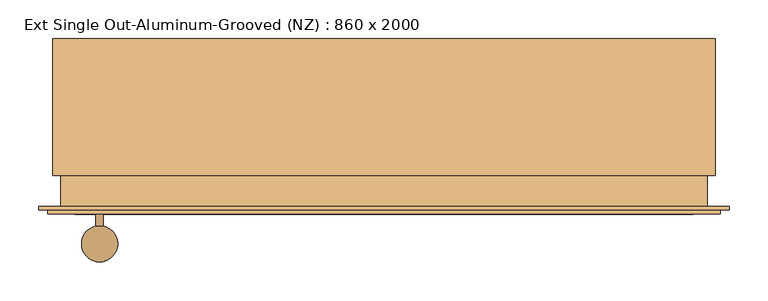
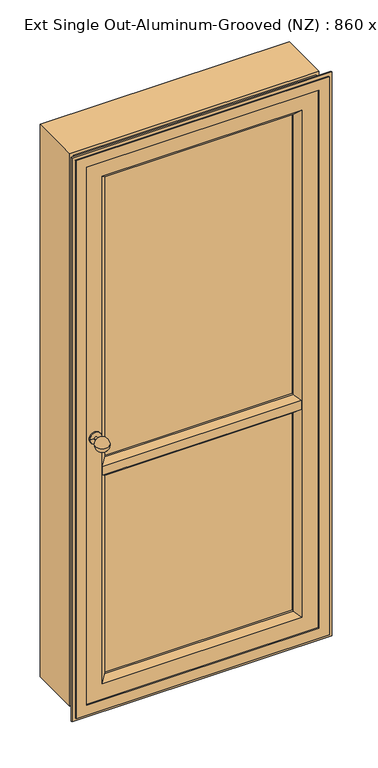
"""IFC4 building model written with IfcOpenShell, lengths in millimetres: door geometry, Ext Single Out-Aluminum-Grooved (NZ) : 860 x 2000."""

from ifc_helpers import new_model, si_unit, point, frame, origin, place, context, project, spatial, polyline, circle_curve, ellipse_curve, trimmed, outline, extrude, faceted_brep, source, transform, mapped, element, save
from ifc_brep_helpers import plane_surface, cylinder_surface, revolved_surface, advanced_brep


def ext_single_out_aluminum_grooved_nz_860_x_2000_eb449b41(model_context):
    return source(origin(), model_context, "Body", "SolidModel", [
        advanced_brep(
        [(-430.0, -104.7734893, 1000.0), (-410.0, -104.7734893, 1000.0), (-450.0, -104.7734893, 1000.0), (-425.0, -125.3183768, 1000.0), (-430.0, -171.1994132, 1000.0), (-435.0, -125.3183768, 1000.0), (-425.0, -109.7734893, 1000.0), (-435.0, -109.7734893, 1000.0), (-410.0, -109.7734893, 1000.0), (-450.0, -109.7734893, 1000.0)],
        [
            (0, 1),
            (1, 2, circle_curve(frame((-430.0, -104.7734893, 1000.0), z_axis=(0.0, 1.0, 0.0), x_axis=(-1.0, 0.0, 0.0)), 20.0)),
            (2, 0),
            (2, 1, circle_curve(frame((-430.0, -104.7734893, 1000.0), z_axis=(0.0, 1.0, 0.0), x_axis=(-1.0, 0.0, 0.0)), 20.0)),
            (3, 4, circle_curve(frame((-430.0, -147.9864513, 1000.0), z_axis=(0.0, 0.0, -1.0), x_axis=(0.0, 1.0, 0.0)), 23.2129619)),
            (4, 5, circle_curve(frame((-430.0, -147.9864513, 1000.0), z_axis=(0.0, 0.0, -1.0), x_axis=(0.0, 1.0, 0.0)), 23.2129619)),
            (5, 3, circle_curve(frame((-430.0, -125.3183768, 1000.0), z_axis=(0.0, -1.0, 0.0), x_axis=(-1.0, 0.0, 0.0)), 5.0)),
            (3, 5, circle_curve(frame((-430.0, -125.3183768, 1000.0), z_axis=(0.0, -1.0, 0.0), x_axis=(-1.0, 0.0, 0.0)), 5.0)),
            (6, 3),
            (5, 7),
            (7, 6, circle_curve(frame((-430.0, -109.7734893, 1000.0), z_axis=(0.0, -1.0, 0.0), x_axis=(-1.0, 0.0, 0.0)), 5.0)),
            (6, 7, circle_curve(frame((-430.0, -109.7734893, 1000.0), z_axis=(0.0, -1.0, 0.0), x_axis=(-1.0, 0.0, 0.0)), 5.0)),
            (8, 6),
            (7, 9),
            (9, 8, circle_curve(frame((-430.0, -109.7734893, 1000.0), z_axis=(0.0, -1.0, 0.0), x_axis=(-1.0, 0.0, 0.0)), 20.0)),
            (8, 9, circle_curve(frame((-430.0, -109.7734893, 1000.0), z_axis=(0.0, -1.0, 0.0), x_axis=(-1.0, 0.0, 0.0)), 20.0)),
            (1, 8),
            (9, 2),
        ],
        [
            plane_surface(frame((-430.0, -104.7734893, 1000.0), z_axis=(0.0, 1.0, 0.0), x_axis=(-1.0, 0.0, 0.0))),
            revolved_surface(trimmed(ellipse_curve(frame((-430.0, -147.9864513, 1000.0), z_axis=(0.0, 0.0, -1.0), x_axis=(0.0, 1.0, 0.0)), 23.2129619, 23.2129619), [point((-430.0, -171.1994132, 1000.0))], [point((-435.0, -125.3183768, 1000.0))], True, "CARTESIAN"), (-430.0, -171.1994132, 1000.0), (0.0, 1.0, 0.0)),
            cylinder_surface(frame((-430.0, -171.1994132, 1000.0), z_axis=(0.0, 1.0, 0.0), x_axis=(-1.0, 0.0, 0.0)), 5.0),
            plane_surface(frame((-430.0, -109.7734893, 1000.0), z_axis=(0.0, -1.0, 0.0), x_axis=(-1.0, 0.0, 0.0))),
            cylinder_surface(frame((-430.0, -171.1994132, 1000.0), z_axis=(0.0, 1.0, 0.0), x_axis=(-1.0, 0.0, 0.0)), 20.0),
        ],
        [
            (0, [[1, 2, 3]]),
            (0, [[-3, 4, -1]]),
            (1, [[5, 6, 7]]),
            (1, [[-6, -5, 8]]),
            (2, [[9, -7, 10, 11]]),
            (2, [[-10, -8, -9, 12]]),
            (3, [[13, -11, 14, 15]]),
            (3, [[-14, -12, -13, 16]]),
            (4, [[17, -15, 18, -2]]),
            (4, [[-18, -16, -17, -4]]),
        ],
    ),
        advanced_brep(
        [(-410.0, -51.7734893, 1000.0), (-410.0, -56.7734893, 1000.0), (-450.0, -56.7734893, 1000.0), (-450.0, -51.7734893, 1000.0), (-425.0, -51.7734893, 1000.0), (-435.0, -51.7734893, 1000.0), (-425.0, -36.2286019, 1000.0), (-435.0, -36.2286019, 1000.0), (-430.0, 9.6524345, 1000.0), (-430.0, -56.7734893, 1000.0)],
        [
            (0, 1),
            (1, 2, circle_curve(frame((-430.0, -56.7734893, 1000.0), z_axis=(0.0, 1.0, 0.0), x_axis=(-1.0, 0.0, 0.0)), 20.0)),
            (2, 3),
            (3, 0, circle_curve(frame((-430.0, -51.7734893, 1000.0), z_axis=(0.0, -1.0, 0.0), x_axis=(-1.0, 0.0, 0.0)), 20.0)),
            (2, 1, circle_curve(frame((-430.0, -56.7734893, 1000.0), z_axis=(0.0, 1.0, 0.0), x_axis=(-1.0, 0.0, 0.0)), 20.0)),
            (0, 3, circle_curve(frame((-430.0, -51.7734893, 1000.0), z_axis=(0.0, -1.0, 0.0), x_axis=(-1.0, 0.0, 0.0)), 20.0)),
            (4, 0),
            (3, 5),
            (5, 4, circle_curve(frame((-430.0, -51.7734893, 1000.0), z_axis=(0.0, -1.0, 0.0), x_axis=(-1.0, 0.0, 0.0)), 5.0)),
            (4, 5, circle_curve(frame((-430.0, -51.7734893, 1000.0), z_axis=(0.0, -1.0, 0.0), x_axis=(-1.0, 0.0, 0.0)), 5.0)),
            (6, 4),
            (5, 7),
            (7, 6, circle_curve(frame((-430.0, -36.2286019, 1000.0), z_axis=(0.0, -1.0, 0.0), x_axis=(-1.0, 0.0, 0.0)), 5.0)),
            (6, 7, circle_curve(frame((-430.0, -36.2286019, 1000.0), z_axis=(0.0, -1.0, 0.0), x_axis=(-1.0, 0.0, 0.0)), 5.0)),
            (8, 6, circle_curve(frame((-430.0, -13.5605274, 1000.0), z_axis=(0.0, 0.0, -1.0), x_axis=(0.0, 1.0, 0.0)), 23.2129619)),
            (7, 8, circle_curve(frame((-430.0, -13.5605274, 1000.0), z_axis=(0.0, 0.0, -1.0), x_axis=(0.0, 1.0, 0.0)), 23.2129619)),
            (1, 9),
            (9, 2),
        ],
        [
            cylinder_surface(frame((-430.0, -171.1994132, 1000.0), z_axis=(0.0, 1.0, 0.0), x_axis=(-1.0, 0.0, 0.0)), 20.0),
            plane_surface(frame((-430.0, -51.7734893, 1000.0), z_axis=(0.0, 1.0, 0.0), x_axis=(-1.0, 0.0, 0.0))),
            cylinder_surface(frame((-430.0, -171.1994132, 1000.0), z_axis=(0.0, 1.0, 0.0), x_axis=(-1.0, 0.0, 0.0)), 5.0),
            revolved_surface(trimmed(ellipse_curve(frame((-430.0, -13.5605274, 1000.0), z_axis=(0.0, 0.0, -1.0), x_axis=(0.0, 1.0, 0.0)), 23.2129619, 23.2129619), [point((-435.0, -36.2286019, 1000.0))], [point((-430.0, 9.6524345, 1000.0))], True, "CARTESIAN"), (-430.0, -171.1994132, 1000.0), (0.0, 1.0, 0.0)),
            plane_surface(frame((-430.0, -56.7734893, 1000.0), z_axis=(0.0, -1.0, 0.0), x_axis=(-1.0, 0.0, 0.0))),
        ],
        [
            (0, [[1, 2, 3, 4]]),
            (0, [[-3, 5, -1, 6]]),
            (1, [[7, -4, 8, 9]]),
            (1, [[-8, -6, -7, 10]]),
            (2, [[11, -9, 12, 13]]),
            (2, [[-12, -10, -11, 14]]),
            (3, [[15, -13, 16]]),
            (3, [[-16, -14, -15]]),
            (4, [[17, 18, -2]]),
            (4, [[-18, -17, -5]]),
        ],
    ),
        faceted_brep([(-480.0, -100.0, 30.0), (-480.0, -100.0, 2005.0), (-480.0, -60.0, 2005.0), (-480.0, -60.0, 30.0), (-507.6806291, -104.7734893, 2.3193709), (-507.6806291, -104.7734893, 2032.6806291), (-507.6806291, -100.0, 2032.6806291), (-507.6806291, -100.0, 2.3193709), (-474.9666646, -100.0, 35.0333354), (-474.9666646, -100.0, 1999.9666646), (-474.9666646, -104.7734893, 1999.9666646), (-474.9666646, -104.7734893, 35.0333354), (-469.6382174, -64.8384626, 40.3617826), (-469.6382174, -64.8384626, 1994.6382174), (-469.6382174, -100.0, 1994.6382174), (-469.6382174, -100.0, 40.3617826), (-440.0, -60.0, 70.0), (-440.0, -60.0, 1965.0), (-440.0, -64.8384626, 1965.0), (-440.0, -64.8384626, 70.0), (350.0, -100.0, 2005.0), (350.0, -60.0, 2005.0), (377.6806291, -104.7734893, 2032.6806291), (377.6806291, -100.0, 2032.6806291), (344.9666646, -100.0, 1999.9666646), (344.9666646, -104.7734893, 1999.9666646), (339.6382174, -64.8384626, 1994.6382174), (339.6382174, -100.0, 1994.6382174), (310.0, -60.0, 1965.0), (310.0, -64.8384626, 1965.0), (350.0, -100.0, 30.0), (350.0, -60.0, 30.0), (377.6806291, -104.7734893, 2.3193709), (377.6806291, -100.0, 2.3193709), (344.9666646, -100.0, 35.0333354), (344.9666646, -104.7734893, 35.0333354), (339.6382174, -64.8384626, 40.3617826), (339.6382174, -100.0, 40.3617826), (310.0, -60.0, 70.0), (310.0, -64.8384626, 70.0)], [[[0, 1, 2, 3]], [[4, 5, 6, 7]], [[8, 9, 10, 11]], [[12, 13, 14, 15]], [[16, 17, 18, 19]], [[1, 20, 21, 2]], [[5, 22, 23, 6]], [[9, 24, 25, 10]], [[13, 26, 27, 14]], [[17, 28, 29, 18]], [[20, 30, 31, 21]], [[22, 32, 33, 23]], [[24, 34, 35, 25]], [[26, 36, 37, 27]], [[28, 38, 39, 29]], [[30, 0, 3, 31]], [[7, 6, 23, 33], [1, 0, 30, 20]], [[32, 4, 7, 33]], [[5, 4, 32, 22], [11, 10, 25, 35]], [[34, 8, 11, 35]], [[9, 8, 34, 24], [15, 14, 27, 37]], [[36, 12, 15, 37]], [[13, 12, 36, 26], [19, 18, 29, 39]], [[38, 16, 19, 39]], [[3, 2, 21, 31], [17, 16, 38, 28]]]),
        extrude(outline(polyline([(2015.0, -490.0), (25.0, -490.0), (25.0, 360.0), (2015.0, 360.0), (2015.0, -490.0)]), holes=[polyline([(44.0030153, -470.9969847), (1995.9969847, -470.9969847), (1995.9969847, 340.9969847), (44.0030153, 340.9969847), (44.0030153, -470.9969847)])]), frame((0.0, -60.6742273, 0.0), z_axis=(0.0, 1.0, 0.0), x_axis=(0.0, 0.0, 1.0)), (0.0, 0.0, 1.0), 175.6742273),
        extrude(outline(polyline([(257.3189571, -75.0), (257.3189571, -80.0), (-387.3189571, -80.0), (-387.3189571, -75.0), (257.3189571, -75.0)])), frame((0.0, 0.0, 122.6810429), z_axis=(0.0, 0.0, 1.0), x_axis=(1.0, 0.0, 0.0)), (0.0, 0.0, 1.0), 1789.6379143),
        faceted_brep([(-467.3189571, -104.7734893, 42.6810429), (-467.3189571, -104.7734893, 1992.3189571), (-467.3189571, -69.2968021, 1992.3189571), (-467.3189571, -69.2968021, 42.6810429), (-496.5692748, -109.9610686, 13.4307252), (-496.5692748, -109.9610686, 2021.5692748), (-496.5692748, -104.7734893, 2021.5692748), (-496.5692748, -104.7734893, 13.4307252), (-461.5692748, -104.7734893, 48.4307252), (-461.5692748, -104.7734893, 1986.5692748), (-461.5692748, -109.9610686, 1986.5692748), (-461.5692748, -109.9610686, 48.4307252), (-387.3189571, -87.9474839, 122.6810429), (-387.3189571, -87.9474839, 1912.3189571), (-405.3752431, -104.7734893, 1930.3752431), (-405.3752431, -104.7734893, 104.6247569), (-387.3189571, -69.2968021, 122.6810429), (-387.3189571, -69.2968021, 1912.3189571), (337.3189571, -104.7734893, 1992.3189571), (337.3189571, -69.2968021, 1992.3189571), (366.5692748, -109.9610686, 2021.5692748), (366.5692748, -104.7734893, 2021.5692748), (331.5692748, -104.7734893, 1986.5692748), (331.5692748, -109.9610686, 1986.5692748), (257.3189571, -87.9474839, 1912.3189571), (275.3752431, -104.7734893, 1930.3752431), (257.3189571, -69.2968021, 1912.3189571), (337.3189571, -104.7734893, 42.6810429), (337.3189571, -69.2968021, 42.6810429), (366.5692748, -109.9610686, 13.4307252), (366.5692748, -104.7734893, 13.4307252), (331.5692748, -104.7734893, 48.4307252), (331.5692748, -109.9610686, 48.4307252), (257.3189571, -87.9474839, 122.6810429), (275.3752431, -104.7734893, 104.6247569), (257.3189571, -69.2968021, 122.6810429)], [[[0, 1, 2, 3]], [[4, 5, 6, 7]], [[8, 9, 10, 11]], [[12, 13, 14, 15]], [[16, 17, 13, 12]], [[1, 18, 19, 2]], [[5, 20, 21, 6]], [[9, 22, 23, 10]], [[13, 24, 25, 14]], [[17, 26, 24, 13]], [[18, 27, 28, 19]], [[20, 29, 30, 21]], [[22, 31, 32, 23]], [[24, 33, 34, 25]], [[26, 35, 33, 24]], [[3, 2, 19, 28], [17, 16, 35, 26]], [[27, 0, 3, 28]], [[7, 6, 21, 30], [1, 0, 27, 18]], [[29, 4, 7, 30]], [[5, 4, 29, 20], [11, 10, 23, 32]], [[31, 8, 11, 32]], [[9, 8, 31, 22], [15, 14, 25, 34]], [[33, 12, 15, 34]], [[35, 16, 12, 33]]]),
        extrude(outline(polyline([(-69.2968021, 902.9474839), (-69.2968021, 837.9474839), (-87.9474839, 837.9474839), (-104.7734893, 854.7734893), (-104.7734893, 885.7040221), (-87.5300276, 902.9474839), (-69.2968021, 902.9474839)])), frame((-405.3752431, 0.0, 0.0), z_axis=(1.0, 0.0, 0.0), x_axis=(0.0, 1.0, 0.0)), (0.0, 0.0, 1.0), 680.7504863),
    ])


if __name__ == "__main__":
    model = new_model("IFC4")
    model_context = context("Model", 3, world=origin())
    ifc_project = project(units=[si_unit("LENGTHUNIT", "METRE", prefix="MILLI")], contexts=[model_context])
    site = spatial("IfcSite", under=ifc_project)
    building = spatial("IfcBuilding", under=site)
    placement = place(None, origin())
    ext_single_out_aluminum_grooved_nz_860_x_2000_shape = ext_single_out_aluminum_grooved_nz_860_x_2000_eb449b41(model_context)
    element("IfcDoor", 1, ObjectType="Ext Single Out-Aluminum-Grooved (NZ) : 860 x 2000", at=placement, inside=building, context=model_context, shape_type="MappedRepresentation", body=[
        mapped(ext_single_out_aluminum_grooved_nz_860_x_2000_shape, transform((0.0, 0.0, 0.0), x_axis=(1.0, 0.0, 0.0), y_axis=(0.0, 1.0, 0.0), z_axis=(0.0, 0.0, 1.0))),
    ])
    save(model, "model.ifc")
